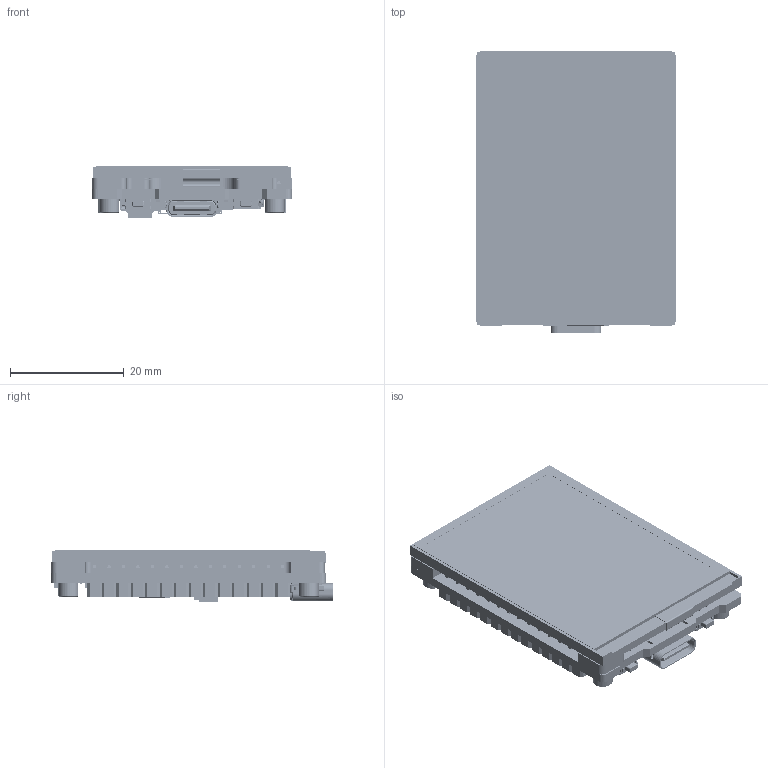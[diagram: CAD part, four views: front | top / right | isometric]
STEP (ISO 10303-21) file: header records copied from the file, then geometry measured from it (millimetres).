
FILE_DESCRIPTION(('Open CASCADE Model'),'2;1');
FILE_NAME('Open CASCADE Shape Model','2026-11-21T21:44:39',('Author'),( 'Open CASCADE'),'Open CASCADE STEP processor 7.9','Open CASCADE 7.9' ,'Unknown');
FILE_SCHEMA(('AUTOMOTIVE_DESIGN { 1 0 10303 214 1 1 1 1 }'));
Length unit declared in the file: millimetre
Products named in the file (325): Open CASCADE STEP translator 7.9 8; Open CASCADE STEP translator 7.9 8.1; Open CASCADE STEP translator 7.9 8.2; Open CASCADE STEP translator 7.9 8.3; Open CASCADE STEP translator 7.9 8.4; Open CASCADE STEP translator 7.9 8.5; Open CASCADE STEP translator 7.9 8.6; Open CASCADE STEP translator 7.9 8.7; Open CASCADE STEP translator 7.9 8.8; Open CASCADE STEP translator 7.9 8.9; Open CASCADE STEP translator 7.9 8.10; Open CASCADE STEP translator 7.9 8.11; Open CASCADE STEP translator 7.9 8.12; Open CASCADE STEP translator 7.9 8.13; Open CASCADE STEP translator 7.9 8.14; Open CASCADE STEP translator 7.9 8.15; Open CASCADE STEP translator 7.9 8.16; Open CASCADE STEP translator 7.9 8.17; Open CASCADE STEP translator 7.9 8.18; Open CASCADE STEP translator 7.9 8.19; Open CASCADE STEP translator 7.9 8.20; Open CASCADE STEP translator 7.9 8.21; Open CASCADE STEP translator 7.9 8.22; Open CASCADE STEP translator 7.9 8.23; Open CASCADE STEP translator 7.9 8.24; Open CASCADE STEP translator 7.9 8.25; Open CASCADE STEP translator 7.9 8.26; Open CASCADE STEP translator 7.9 8.27; Open CASCADE STEP translator 7.9 8.28; Open CASCADE STEP translator 7.9 8.29; Open CASCADE STEP translator 7.9 8.30; Open CASCADE STEP translator 7.9 8.31; Open CASCADE STEP translator 7.9 8.32; Open CASCADE STEP translator 7.9 8.33; Open CASCADE STEP translator 7.9 8.34; Open CASCADE STEP translator 7.9 8.35; Open CASCADE STEP translator 7.9 8.36; Open CASCADE STEP translator 7.9 8.37; Open CASCADE STEP translator 7.9 8.38; Open CASCADE STEP translator 7.9 8.39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
Assembly tree (324 placements, depth 2):
  Open CASCADE STEP translator 7.9 8
    Open CASCADE STEP translator 7.9 8.1
    Open CASCADE STEP translator 7.9 8.2
    Open CASCADE STEP translator 7.9 8.3
    Open CASCADE STEP translator 7.9 8.4
    Open CASCADE STEP translator 7.9 8.5
    Open CASCADE STEP translator 7.9 8.6
    Open CASCADE STEP translator 7.9 8.7
    Open CASCADE STEP translator 7.9 8.8
    Open CASCADE STEP translator 7.9 8.9
    Open CASCADE STEP translator 7.9 8.10
    Open CASCADE STEP translator 7.9 8.11
    Open CASCADE STEP translator 7.9 8.12
    Open CASCADE STEP translator 7.9 8.13
    Open CASCADE STEP translator 7.9 8.14
    Open CASCADE STEP translator 7.9 8.15
    Open CASCADE STEP translator 7.9 8.16
    Open CASCADE STEP translator 7.9 8.17
    Open CASCADE STEP translator 7.9 8.18
    Open CASCADE STEP translator 7.9 8.19
    Open CASCADE STEP translator 7.9 8.20
    Open CASCADE STEP translator 7.9 8.21
    Open CASCADE STEP translator 7.9 8.22
    Open CASCADE STEP translator 7.9 8.23
    Open CASCADE STEP translator 7.9 8.24
    Open CASCADE STEP translator 7.9 8.25
    Open CASCADE STEP translator 7.9 8.26
    Open CASCADE STEP translator 7.9 8.27
    Open CASCADE STEP translator 7.9 8.28
    Open CASCADE STEP translator 7.9 8.29
    Open CASCADE STEP translator 7.9 8.30
    Open CASCADE STEP translator 7.9 8.31
    Open CASCADE STEP translator 7.9 8.32
    Open CASCADE STEP translator 7.9 8.33
    Open CASCADE STEP translator 7.9 8.34
    Open CASCADE STEP translator 7.9 8.35
    Open CASCADE STEP translator 7.9 8.36
    Open CASCADE STEP translator 7.9 8.37
    Open CASCADE STEP translator 7.9 8.38
    Open CASCADE STEP translator 7.9 8.39
    Open CASCADE STEP translator 7.9 8.40
    Open CASCADE STEP translator 7.9 8.41
    Open CASCADE STEP translator 7.9 8.42
    Open CASCADE STEP translator 7.9 8.43
    Open CASCADE STEP translator 7.9 8.44
    Open CASCADE STEP translator 7.9 8.45
    Open CASCADE STEP translator 7.9 8.46
    Open CASCADE STEP translator 7.9 8.47
    Open CASCADE STEP translator 7.9 8.48
    Open CASCADE STEP translator 7.9 8.49
    Open CASCADE STEP translator 7.9 8.50
    Open CASCADE STEP translator 7.9 8.51
    Open CASCADE STEP translator 7.9 8.52
    Open CASCADE STEP translator 7.9 8.53
    Open CASCADE STEP translator 7.9 8.54
    Open CASCADE STEP translator 7.9 8.55
    Open CASCADE STEP translator 7.9 8.56
    Open CASCADE STEP translator 7.9 8.57
    Open CASCADE STEP translator 7.9 8.58
    Open CASCADE STEP translator 7.9 8.59
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Bounding box: 35.02 x 49.4 x 9.1 mm (x, y, z)
Volume: 8570 mm3; surface area: 14953.9 mm2
Topology: 324 solids, 336 shells, 17583 faces, 46455 edges, 30187 vertices
Faces by surface type: plane 11660, extrusion 3269, cylinder 2189, sphere 331, cone 60, torus 40, bspline 34
Entity records: 1369611 total; most frequent: CARTESIAN_POINT 467995, DIRECTION 151780, VECTOR 111980, LINE 108711, ORIENTED_EDGE 92252, PCURVE 92252, DEFINITIONAL_REPRESENTATION 92252, EDGE_CURVE 46126
